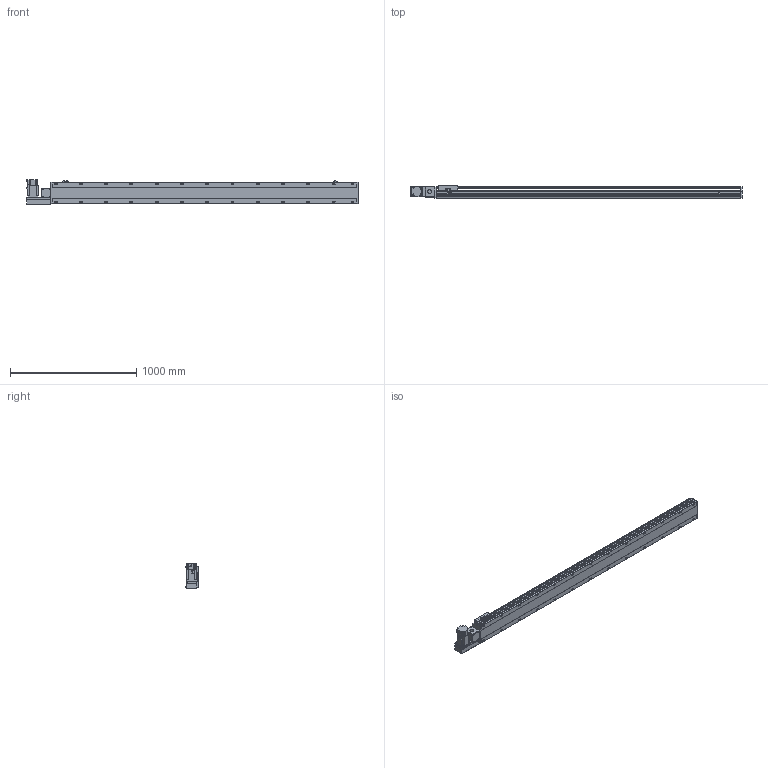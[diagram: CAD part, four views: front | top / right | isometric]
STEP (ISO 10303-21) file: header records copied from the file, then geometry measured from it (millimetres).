
FILE_DESCRIPTION( ( 'STEP AP214' ), '1' );
FILE_NAME( 'x:/temp/worker_4/temp/exporttempdir_2248_220_zvyyn/format_0/PBS170-P40-S2150-L-T75-C1-N(0).stp', '2022-06-07T06:58:20', ( 'License CC BY-ND 4.0' ), ( 'CADENAS' ), ' ', 'PARTsolutions', ' ' );
FILE_SCHEMA( ( 'AUTOMOTIVE_DESIGN { 1 0 10303 214 1 1 1 1 }' ) );
Length unit declared in the file: millimetre
Products named in the file (7): PBS170-P40-S2150-L-T75-C1-N(0); _PBS170-S2150()_body; _PBS170T-L_motors; _T75-p1; _PBS170_sliser; _PBS170_plant; _PBS170_sensor
Assembly tree (8 placements, depth 2):
  PBS170-P40-S2150-L-T75-C1-N(0)
    _PBS170-S2150()_body
    _PBS170T-L_motors
    _T75-p1
    _PBS170_sliser
    _PBS170_plant
    _PBS170_sensor  x3
Bounding box: 2628 x 97 x 197.3 mm (x, y, z)
Volume: 19185099.4 mm3; surface area: 2428560.4 mm2
Topology: 8 solids, 8 shells, 1162 faces, 3075 edges, 2004 vertices
Faces by surface type: plane 717, cylinder 379, cone 56, sphere 8, torus 2
Full cylindrical faces by diameter (mm): 3.242 x4, 4 x2, 4.4 x4, 4.5 x6, 4.917 x4, 6 x9, 6.647 x34, 7 x2, 7.5 x4, 8 x8, 8.5 x26, 10 x4, 10.5 x26, 11 x2, 30 x2, 40 x1, 70 x1
Entity records: 42950 total; most frequent: CARTESIAN_POINT 7061, DIRECTION 5650, ORIENTED_EDGE 5328, EDGE_CURVE 2664, AXIS2_PLACEMENT_3D 1987, VERTEX_POINT 1850, LINE 1676, VECTOR 1676
